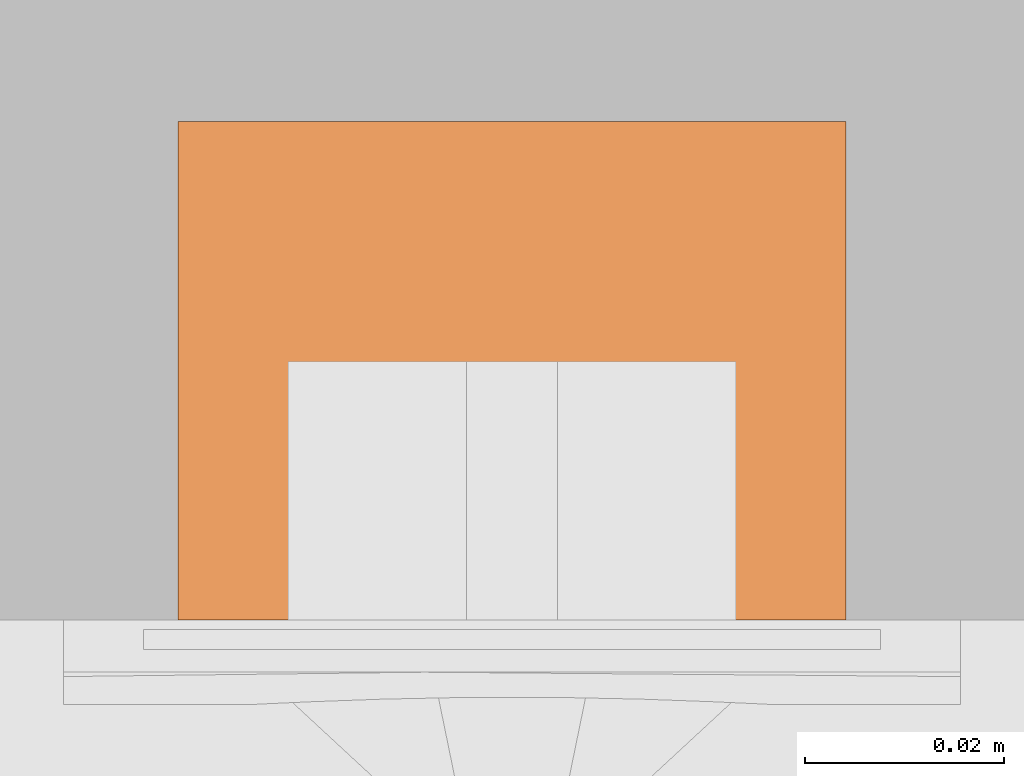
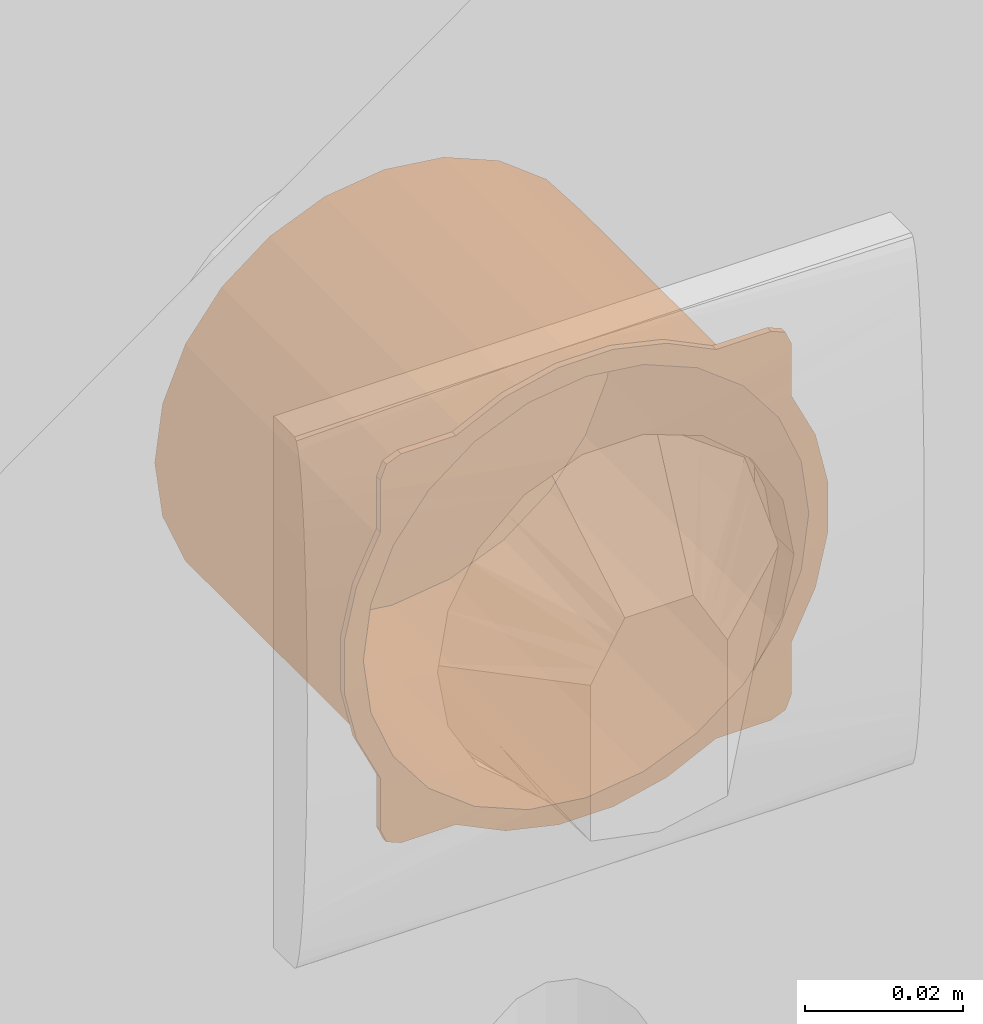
# One storey, part 28 of 30: 1 proxy.
"""IFC2X3 building model written with IfcOpenShell, lengths in metres."""

from ifc_helpers import new_model, entity, si_unit, converted_unit, derived_unit, direction, frame, origin, place, context, subcontext, project, spatial, faceted_brep, source, transform, mapped, material, type_object, type_shapes, element, save


model = new_model("IFC2X3")

# Units and contexts
model_context = context("Model", 3, precision=1e-05, world=origin(), true_north=direction((6.123031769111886e-17, 1.0)))
body_context = subcontext(model_context, "Body", "Model", "MODEL_VIEW")
ifc_project = project(units=[si_unit("LENGTHUNIT", "METRE"), si_unit("AREAUNIT", "SQUARE_METRE"), si_unit("VOLUMEUNIT", "CUBIC_METRE"), converted_unit("PLANEANGLEUNIT", "DEGREE", entity("IfcPlaneAngleMeasure", 0.017453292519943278), si_unit("PLANEANGLEUNIT", "RADIAN"), dimensions=[0, 0, 0, 0, 0, 0, 0]), si_unit("MASSUNIT", "GRAM", prefix="KILO"), derived_unit("MASSDENSITYUNIT", [(si_unit("MASSUNIT", "GRAM", prefix="KILO"), 1), (si_unit("LENGTHUNIT", "METRE"), -3)]), derived_unit("IONCONCENTRATIONUNIT", [(si_unit("MASSUNIT", "GRAM", prefix="KILO"), 1), (si_unit("LENGTHUNIT", "METRE"), -3)]), derived_unit("MOMENTOFINERTIAUNIT", [(si_unit("LENGTHUNIT", "METRE"), 4)]), si_unit("TIMEUNIT", "SECOND"), si_unit("FREQUENCYUNIT", "HERTZ"), si_unit("THERMODYNAMICTEMPERATUREUNIT", "DEGREE_CELSIUS"), derived_unit("THERMALTRANSMITTANCEUNIT", [(si_unit("MASSUNIT", "GRAM", prefix="KILO"), 1), (si_unit("THERMODYNAMICTEMPERATUREUNIT", "KELVIN"), -1), (si_unit("TIMEUNIT", "SECOND"), -3)]), derived_unit("THERMALCONDUCTANCEUNIT", [(si_unit("MASSUNIT", "GRAM", prefix="KILO"), 1), (si_unit("THERMODYNAMICTEMPERATUREUNIT", "KELVIN"), -1), (si_unit("TIMEUNIT", "SECOND"), -3), (si_unit("LENGTHUNIT", "METRE"), 1)]), derived_unit("VOLUMETRICFLOWRATEUNIT", [(si_unit("LENGTHUNIT", "METRE", prefix="DECI"), 3), (si_unit("TIMEUNIT", "SECOND"), -1)]), derived_unit("MASSFLOWRATEUNIT", [(si_unit("MASSUNIT", "GRAM", prefix="KILO"), 1), (si_unit("TIMEUNIT", "SECOND"), -1)]), derived_unit("ROTATIONALFREQUENCYUNIT", [(si_unit("TIMEUNIT", "SECOND"), -1)]), si_unit("ELECTRICCURRENTUNIT", "AMPERE"), si_unit("ELECTRICVOLTAGEUNIT", "VOLT"), si_unit("POWERUNIT", "WATT"), si_unit("FORCEUNIT", "NEWTON", prefix="KILO"), si_unit("ILLUMINANCEUNIT", "LUX"), si_unit("LUMINOUSFLUXUNIT", "LUMEN"), si_unit("LUMINOUSINTENSITYUNIT", "CANDELA"), si_unit("ENERGYUNIT", "JOULE"), derived_unit("USERDEFINED", [(si_unit("MASSUNIT", "GRAM", prefix="KILO"), -1), (si_unit("LENGTHUNIT", "METRE"), -2), (si_unit("TIMEUNIT", "SECOND"), 3), (si_unit("LUMINOUSFLUXUNIT", "LUMEN"), 1)]), derived_unit("USERDEFINED", [(si_unit("MASSUNIT", "GRAM", prefix="KILO"), 1), (si_unit("TIMEUNIT", "SECOND"), -3), (si_unit("LENGTHUNIT", "METRE"), 3), (si_unit("ELECTRICCURRENTUNIT", "AMPERE"), -2)]), derived_unit("SOUNDPOWERUNIT", [(si_unit("MASSUNIT", "GRAM", prefix="KILO"), 1), (si_unit("TIMEUNIT", "SECOND"), -3), (si_unit("LENGTHUNIT", "METRE"), 2)]), derived_unit("SOUNDPRESSUREUNIT", [(si_unit("MASSUNIT", "GRAM", prefix="KILO"), 1), (si_unit("LENGTHUNIT", "METRE"), -1), (si_unit("TIMEUNIT", "SECOND"), -2)]), derived_unit("LINEARVELOCITYUNIT", [(si_unit("LENGTHUNIT", "METRE"), 1), (si_unit("TIMEUNIT", "SECOND"), -1)]), si_unit("PRESSUREUNIT", "PASCAL"), derived_unit("USERDEFINED", [(si_unit("MASSUNIT", "GRAM", prefix="KILO"), 1), (si_unit("LENGTHUNIT", "METRE"), -2), (si_unit("TIMEUNIT", "SECOND"), -2)]), derived_unit("LINEARFORCEUNIT", [(si_unit("MASSUNIT", "GRAM", prefix="KILO"), 1), (si_unit("TIMEUNIT", "SECOND"), -2)]), derived_unit("PLANARFORCEUNIT", [(si_unit("MASSUNIT", "GRAM", prefix="KILO"), 1), (si_unit("LENGTHUNIT", "METRE"), -1), (si_unit("TIMEUNIT", "SECOND"), -2)]), derived_unit("SPECIFICHEATCAPACITYUNIT", [(si_unit("THERMODYNAMICTEMPERATUREUNIT", "KELVIN"), -1), (si_unit("LENGTHUNIT", "METRE"), 2), (si_unit("TIMEUNIT", "SECOND"), -2)]), derived_unit("HEATFLUXDENSITYUNIT", [(si_unit("MASSUNIT", "GRAM", prefix="KILO"), 1), (si_unit("TIMEUNIT", "SECOND"), -3)]), derived_unit("HEATINGVALUEUNIT", [(si_unit("LENGTHUNIT", "METRE"), 2), (si_unit("TIMEUNIT", "SECOND"), -2)]), derived_unit("VAPORPERMEABILITYUNIT", [(si_unit("LENGTHUNIT", "METRE"), -1), (si_unit("TIMEUNIT", "SECOND"), 1)]), derived_unit("DYNAMICVISCOSITYUNIT", [(si_unit("MASSUNIT", "GRAM", prefix="KILO"), 1), (si_unit("TIMEUNIT", "SECOND"), -1), (si_unit("LENGTHUNIT", "METRE"), -1)]), derived_unit("THERMALEXPANSIONCOEFFICIENTUNIT", [(si_unit("THERMODYNAMICTEMPERATUREUNIT", "KELVIN"), -1)]), derived_unit("MODULUSOFELASTICITYUNIT", [(si_unit("MASSUNIT", "GRAM", prefix="KILO"), 1), (si_unit("LENGTHUNIT", "METRE"), -1), (si_unit("TIMEUNIT", "SECOND"), -2)]), derived_unit("ISOTHERMALMOISTURECAPACITYUNIT", [(si_unit("MASSUNIT", "GRAM", prefix="KILO"), -1), (si_unit("LENGTHUNIT", "METRE"), 3)]), derived_unit("MOISTUREDIFFUSIVITYUNIT", [(si_unit("TIMEUNIT", "SECOND"), -1), (si_unit("LENGTHUNIT", "METRE"), 2)]), derived_unit("MASSPERLENGTHUNIT", [(si_unit("MASSUNIT", "GRAM", prefix="KILO"), 1), (si_unit("LENGTHUNIT", "METRE"), -1)]), derived_unit("THERMALRESISTANCEUNIT", [(si_unit("MASSUNIT", "GRAM", prefix="KILO"), -1), (si_unit("TIMEUNIT", "SECOND"), 3), (si_unit("THERMODYNAMICTEMPERATUREUNIT", "KELVIN"), 1)]), derived_unit("ACCELERATIONUNIT", [(si_unit("LENGTHUNIT", "METRE"), 1), (si_unit("TIMEUNIT", "SECOND"), -2)]), derived_unit("ANGULARVELOCITYUNIT", [(si_unit("TIMEUNIT", "SECOND"), -1), (si_unit("PLANEANGLEUNIT", "RADIAN"), 1)]), derived_unit("LINEARSTIFFNESSUNIT", [(si_unit("MASSUNIT", "GRAM", prefix="KILO"), 1), (si_unit("TIMEUNIT", "SECOND"), -2)]), derived_unit("WARPINGCONSTANTUNIT", [(si_unit("LENGTHUNIT", "METRE"), 6)]), derived_unit("LINEARMOMENTUNIT", [(si_unit("MASSUNIT", "GRAM", prefix="KILO"), 1), (si_unit("LENGTHUNIT", "METRE"), 1), (si_unit("TIMEUNIT", "SECOND"), -2)]), derived_unit("TORQUEUNIT", [(si_unit("MASSUNIT", "GRAM", prefix="KILO"), 1), (si_unit("LENGTHUNIT", "METRE"), 2), (si_unit("TIMEUNIT", "SECOND"), -2)])], contexts=[model_context])

# Site, building, storey
site_placement = place(None, origin())
site = spatial("IfcSite", under=ifc_project, at=site_placement, Name="Default", CompositionType="ELEMENT")
building_placement = place(site_placement, origin())
building = spatial("IfcBuilding", under=site, at=building_placement, CompositionType="ELEMENT")
storey_placement = place(building_placement, origin())
storey = spatial("IfcBuildingStorey", under=building, at=storey_placement, Name="Niveau 0", CompositionType="ELEMENT", Elevation=-1.949160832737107e-14)

# Proxy
ifc_material = material(Name="Plastique orange")
building_element_proxy_type = type_object("IfcBuildingElementProxyType", Name="Legrand Boite encastrement batibox 1 poste1:1 poste", PredefinedType="NOTDEFINED", material=ifc_material)
shared_shape = source(origin(), body_context, "Body", "Brep", [
    faceted_brep([(0.141749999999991, 0.1005, -1.7942243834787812), (0.1439802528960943, 0.1005, -1.7952125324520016), (0.1486880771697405, 0.1005, -1.788900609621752), (0.1403837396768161, 0.1005, -1.7969555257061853), (0.13678722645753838, 0.1005, -1.7986985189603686), (0.13367043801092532, 0.1005, -1.7975710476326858), (0.13289192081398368, 0.1005, -1.799592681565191), (0.12899661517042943, 0.1005, -1.8004868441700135), (0.12499999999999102, 0.1005, -1.798712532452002), (0.12499999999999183, 0.1005, -1.8004868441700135), (0.1210033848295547, 0.1005, -1.8004868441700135), (0.11632956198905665, 0.1005, -1.7975710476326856), (0.11710807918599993, 0.1005, -1.799592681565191), (0.11321277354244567, 0.1005, -1.798698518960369), (0.10824999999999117, 0.1005, -1.7942243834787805), (0.10893878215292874, 0.1005, -1.7966271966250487), (0.10601974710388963, 0.1005, -1.7952125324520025), (0.10131192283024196, 0.1005, -1.788900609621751), (0.09799999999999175, 0.1005, -1.7952125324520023), (0.09499999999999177, 0.1005, -1.7922125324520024), (0.09499999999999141, 0.1005, -1.7841927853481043), (0.0959881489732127, 0.1005, -1.7819625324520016), (0.09325700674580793, 0.1005, -1.7805962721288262), (0.09151401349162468, 0.1005, -1.7769997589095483), (0.09264148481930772, 0.1005, -1.7738829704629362), (0.09061985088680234, 0.1005, -1.7731044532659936), (0.08972568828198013, 0.1005, -1.7692091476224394), (0.09149999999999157, 0.1005, -1.7652125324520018), (0.08972568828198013, 0.1005, -1.765212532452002), (0.08972568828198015, 0.1005, -1.7612159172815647), (0.09264148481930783, 0.1005, -1.7565420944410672), (0.09061985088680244, 0.1005, -1.7573206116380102), (0.09151401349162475, 0.1005, -1.7534253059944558), (0.09598814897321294, 0.1005, -1.7484625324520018), (0.09358533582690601, 0.1005, -1.7491513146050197), (0.09499999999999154, 0.1005, -1.7462322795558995), (0.10131192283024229, 0.1005, -1.7415244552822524), (0.0949999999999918, 0.1005, -1.738212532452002), (0.0979999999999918, 0.1005, -1.735212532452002), (0.10601974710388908, 0.1005, -1.735212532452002), (0.10824999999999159, 0.1005, -1.7362006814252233), (0.10961626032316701, 0.1005, -1.7334695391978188), (0.11321277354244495, 0.1005, -1.7317265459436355), (0.11632956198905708, 0.1005, -1.7328540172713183), (0.11710807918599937, 0.1005, -1.7308323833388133), (0.12100338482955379, 0.1005, -1.7299382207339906), (0.12499999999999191, 0.1005, -1.731712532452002), (0.1249999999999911, 0.1005, -1.7299382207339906), (0.1289966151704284, 0.1005, -1.7299382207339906), (0.13367043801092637, 0.1005, -1.7328540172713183), (0.13289192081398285, 0.1005, -1.730832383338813), (0.1367872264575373, 0.1005, -1.7317265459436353), (0.14174999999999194, 0.1005, -1.7362006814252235), (0.1410612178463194, 0.1005, -1.7337978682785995), (0.14398025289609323, 0.1005, -1.7352125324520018), (0.14868807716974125, 0.1005, -1.741524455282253), (0.15199999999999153, 0.1005, -1.7352125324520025), (0.1549999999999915, 0.1005, -1.7382125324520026), (0.1549999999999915, 0.1005, -1.7462322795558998), (0.15401185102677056, 0.1005, -1.7484625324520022), (0.15674299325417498, 0.1005, -1.749828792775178), (0.1584859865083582, 0.1005, -1.7534253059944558), (0.15735851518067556, 0.1005, -1.7565420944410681), (0.15938014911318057, 0.1005, -1.7573206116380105), (0.16027431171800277, 0.1005, -1.7612159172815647), (0.15849999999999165, 0.1005, -1.7652125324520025), (0.16027431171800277, 0.1005, -1.7652125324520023), (0.16027431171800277, 0.1005, -1.7692091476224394), (0.15735851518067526, 0.1005, -1.773882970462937), (0.15938014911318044, 0.1005, -1.773104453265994), (0.1584859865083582, 0.1005, -1.7769997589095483), (0.15401185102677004, 0.1005, -1.7819625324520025), (0.1549999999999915, 0.1005, -1.7841927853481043), (0.15641466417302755, 0.1005, -1.7812737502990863), (0.15412132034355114, 0.1005, -1.7360912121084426), (0.09587867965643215, 0.1005, -1.7360912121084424), (0.09587867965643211, 0.1005, -1.7943338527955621), (0.15199999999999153, 0.1005, -1.7952125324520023), (0.15499999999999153, 0.1005, -1.7922125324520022), (0.1541213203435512, 0.1005, -1.794333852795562), (0.1439802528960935, 0.1015, -1.7352125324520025), (0.14798097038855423, 0.1015, -1.7422315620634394), (0.14461548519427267, 0.1015, -1.7396491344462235), (0.15199999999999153, 0.1015, -1.7352125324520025), (0.14124999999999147, 0.1015, -1.737066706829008), (0.14038373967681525, 0.1015, -1.7334695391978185), (0.1549999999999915, 0.1015, -1.7382125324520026), (0.15412132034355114, 0.1015, -1.7360912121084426), (0.1549999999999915, 0.1015, -1.7462322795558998), (0.15056339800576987, 0.1015, -1.7455970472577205), (0.15314582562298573, 0.1015, -1.7489625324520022), (0.1564146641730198, 0.1015, -1.7491513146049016), (0.1584859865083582, 0.1015, -1.7534253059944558), (0.1547692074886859, 0.1015, -1.752881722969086), (0.15639258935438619, 0.1015, -1.7568009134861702), (0.15938014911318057, 0.1015, -1.7573206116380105), (0.16027431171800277, 0.1015, -1.7612159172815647), (0.1569462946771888, 0.1015, -1.761006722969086), (0.15749999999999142, 0.1015, -1.765212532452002), (0.16027431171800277, 0.1015, -1.7652125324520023), (0.16027431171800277, 0.1015, -1.7692091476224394), (0.15694629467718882, 0.1015, -1.769418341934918), (0.15639258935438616, 0.1015, -1.773624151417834), (0.15938014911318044, 0.1015, -1.773104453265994), (0.1584859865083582, 0.1015, -1.7769997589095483), (0.15476920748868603, 0.1015, -1.7775433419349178), (0.15314582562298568, 0.1015, -1.7814625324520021), (0.1567429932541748, 0.1015, -1.7805962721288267), (0.15499999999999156, 0.1015, -1.7841927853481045), (0.1505633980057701, 0.1015, -1.7848280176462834), (0.14798097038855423, 0.1015, -1.788193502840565), (0.15499999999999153, 0.1015, -1.7922125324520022), (0.15199999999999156, 0.1015, -1.7952125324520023), (0.1541213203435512, 0.1015, -1.794333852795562), (0.1439802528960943, 0.1015, -1.7952125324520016), (0.144615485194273, 0.1015, -1.7907759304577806), (0.14124999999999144, 0.1015, -1.7933583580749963), (0.1410612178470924, 0.1015, -1.79662719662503), (0.13678722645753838, 0.1015, -1.7986985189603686), (0.13733080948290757, 0.1015, -1.7949817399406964), (0.13341161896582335, 0.1015, -1.796605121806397), (0.13289192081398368, 0.1015, -1.799592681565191), (0.12899661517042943, 0.1015, -1.8004868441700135), (0.1292058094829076, 0.1015, -1.7971588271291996), (0.12499999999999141, 0.1015, -1.7977125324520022), (0.12499999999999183, 0.1015, -1.8004868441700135), (0.1210033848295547, 0.1015, -1.8004868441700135), (0.12192512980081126, 0.1015, -1.7973077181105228), (0.11658838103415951, 0.1015, -1.796605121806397), (0.11710807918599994, 0.1015, -1.799592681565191), (0.11321277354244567, 0.1015, -1.798698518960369), (0.11266919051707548, 0.1015, -1.7949817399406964), (0.10874999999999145, 0.1015, -1.7933583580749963), (0.10961626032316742, 0.1015, -1.7969555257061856), (0.10601974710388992, 0.1015, -1.7952125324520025), (0.10538451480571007, 0.1015, -1.7907759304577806), (0.10201902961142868, 0.1015, -1.788193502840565), (0.09799999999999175, 0.1015, -1.7952125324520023), (0.09499999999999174, 0.1015, -1.7922125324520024), (0.09587867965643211, 0.1015, -1.7943338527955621), (0.09499999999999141, 0.1015, -1.7841927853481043), (0.09943660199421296, 0.1015, -1.7848280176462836), (0.09685417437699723, 0.1015, -1.7814625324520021), (0.09358533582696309, 0.1015, -1.7812737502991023), (0.09151401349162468, 0.1015, -1.7769997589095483), (0.09523079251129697, 0.1015, -1.777543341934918), (0.09360741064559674, 0.1015, -1.773624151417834), (0.09061985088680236, 0.1015, -1.7731044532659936), (0.08972568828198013, 0.1015, -1.7692091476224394), (0.0930537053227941, 0.1015, -1.7694183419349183), (0.09249999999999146, 0.1015, -1.7652125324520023), (0.08972568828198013, 0.1015, -1.765212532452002), (0.08972568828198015, 0.1015, -1.7612159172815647), (0.09305370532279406, 0.1015, -1.7610067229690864), (0.09360741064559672, 0.1015, -1.7568009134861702), (0.09061985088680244, 0.1015, -1.7573206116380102), (0.09151401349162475, 0.1015, -1.7534253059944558), (0.09523079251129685, 0.1015, -1.7528817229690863), (0.09685417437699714, 0.1015, -1.7489625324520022), (0.09325700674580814, 0.1015, -1.7498287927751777), (0.0949999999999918, 0.1015, -1.7462322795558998), (0.09943660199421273, 0.1015, -1.7455970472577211), (0.10201902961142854, 0.1015, -1.7422315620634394), (0.0949999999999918, 0.1015, -1.738212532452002), (0.0979999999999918, 0.1015, -1.735212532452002), (0.09587867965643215, 0.1015, -1.7360912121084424), (0.10601974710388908, 0.1015, -1.735212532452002), (0.10538451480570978, 0.1015, -1.7396491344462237), (0.10874999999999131, 0.1015, -1.737066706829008), (0.10893878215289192, 0.1015, -1.7337978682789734), (0.11321277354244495, 0.1015, -1.7317265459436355), (0.11266919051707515, 0.1015, -1.7354433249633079), (0.11658838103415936, 0.1015, -1.7338199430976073), (0.11710807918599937, 0.1015, -1.7308323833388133), (0.12100338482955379, 0.1015, -1.7299382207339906), (0.12079419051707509, 0.1015, -1.7332662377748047), (0.12499999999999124, 0.1015, -1.732712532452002), (0.1249999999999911, 0.1015, -1.7299382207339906), (0.1289966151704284, 0.1015, -1.7299382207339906), (0.1280748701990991, 0.1015, -1.7331173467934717), (0.13341161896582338, 0.1015, -1.7338199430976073), (0.13289192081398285, 0.1015, -1.730832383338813), (0.1367872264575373, 0.1015, -1.7317265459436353), (0.13733080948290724, 0.1015, -1.7354433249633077), (0.11658838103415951, 0.1005, -1.796605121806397), (0.12079419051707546, 0.1005, -1.7971588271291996), (0.11658838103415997, 0.05250000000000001, -1.796605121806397), (0.12499999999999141, 0.1005, -1.7977125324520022), (0.12499999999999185, 0.05250000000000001, -1.797712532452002), (0.11658838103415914, 0.1005, -1.7338199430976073), (0.12079419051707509, 0.1005, -1.7332662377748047), (0.11658838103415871, 0.05250000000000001, -1.7338199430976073), (0.12499999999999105, 0.1005, -1.732712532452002), (0.1249999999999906, 0.05250000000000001, -1.732712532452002), (0.11266919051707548, 0.1005, -1.7949817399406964), (0.10874999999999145, 0.1005, -1.7933583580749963), (0.10874999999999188, 0.05250000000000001, -1.7933583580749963), (0.10201902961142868, 0.1005, -1.788193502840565), (0.09943660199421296, 0.1005, -1.7848280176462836), (0.09685417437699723, 0.1005, -1.7814625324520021), (0.10201902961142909, 0.05250000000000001, -1.788193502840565), (0.09685417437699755, 0.05250000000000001, -1.7814625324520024), (0.11266919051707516, 0.10050000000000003, -1.7354433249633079), (0.10874999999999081, 0.05250000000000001, -1.7370667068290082), (0.10874999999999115, 0.1005, -1.737066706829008), (0.10538451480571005, 0.1005, -1.7907759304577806), (0.09523079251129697, 0.1005, -1.777543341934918), (0.09360741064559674, 0.1005, -1.773624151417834), (0.093607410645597, 0.05250000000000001, -1.7736241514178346), (0.09249999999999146, 0.1005, -1.7652125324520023), (0.0930537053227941, 0.1005, -1.7694183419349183), (0.09249999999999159, 0.05250000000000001, -1.7652125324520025), (0.09305370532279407, 0.10050000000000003, -1.7610067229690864), (0.09360741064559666, 0.1005, -1.7568009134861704), (0.09360741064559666, 0.05250000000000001, -1.7568009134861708), (0.09943660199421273, 0.10050000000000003, -1.7455970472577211), (0.09685417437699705, 0.1005, -1.7489625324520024), (0.10201902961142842, 0.1005, -1.7422315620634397), (0.09685417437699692, 0.05250000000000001, -1.7489625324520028), (0.10201902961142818, 0.05250000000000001, -1.7422315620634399), (0.10538451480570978, 0.1005, -1.7396491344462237), (0.09523079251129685, 0.1005, -1.7528817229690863), (0.13341161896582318, 0.1005, -1.7338199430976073), (0.12920580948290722, 0.1005, -1.7332662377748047), (0.13341161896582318, 0.05250000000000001, -1.7338199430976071), (0.13341161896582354, 0.1005, -1.796605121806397), (0.12920580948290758, 0.10050000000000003, -1.7971588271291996), (0.13341161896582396, 0.05250000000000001, -1.7966051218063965), (0.1373308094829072, 0.1005, -1.7354433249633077), (0.14124999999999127, 0.1005, -1.7370667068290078), (0.1412499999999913, 0.05250000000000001, -1.7370667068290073), (0.1479809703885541, 0.1005, -1.742231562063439), (0.15056339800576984, 0.1005, -1.7455970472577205), (0.15314582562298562, 0.1005, -1.748962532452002), (0.14798097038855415, 0.05250000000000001, -1.742231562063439), (0.15314582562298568, 0.05250000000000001, -1.7489625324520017), (0.13733080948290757, 0.1005, -1.7949817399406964), (0.141249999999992, 0.05250000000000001, -1.793358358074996), (0.14124999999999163, 0.1005, -1.793358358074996), (0.1446154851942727, 0.10050000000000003, -1.7396491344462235), (0.1547692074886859, 0.10050000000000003, -1.752881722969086), (0.15639258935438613, 0.1005, -1.7568009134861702), (0.15639258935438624, 0.05250000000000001, -1.7568009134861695), (0.15749999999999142, 0.1005, -1.765212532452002), (0.1569462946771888, 0.10050000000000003, -1.761006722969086), (0.15749999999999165, 0.05250000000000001, -1.7652125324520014), (0.15694629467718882, 0.1005, -1.769418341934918), (0.1563925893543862, 0.1005, -1.773624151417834), (0.15639258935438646, 0.05250000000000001, -1.7736241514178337), (0.1505633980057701, 0.10050000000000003, -1.7848280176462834), (0.15314582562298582, 0.1005, -1.781462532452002), (0.1479809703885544, 0.1005, -1.7881935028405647), (0.1531458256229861, 0.05250000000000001, -1.7814625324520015), (0.14798097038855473, 0.05250000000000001, -1.7881935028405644), (0.14461548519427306, 0.1005, -1.7907759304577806), (0.15476920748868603, 0.1005, -1.7775433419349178), (0.14174999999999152, 0.05050000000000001, -1.7942243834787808), (0.1486880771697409, 0.05050000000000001, -1.7889006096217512), (0.15401185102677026, 0.05050000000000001, -1.781962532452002), (0.1573585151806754, 0.05050000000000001, -1.7738829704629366), (0.15849999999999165, 0.05050000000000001, -1.765212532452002), (0.15735851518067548, 0.05050000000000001, -1.7565420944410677), (0.1540118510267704, 0.05050000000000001, -1.748462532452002), (0.14868807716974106, 0.05050000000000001, -1.7415244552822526), (0.14174999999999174, 0.05050000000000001, -1.7362006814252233), (0.1336704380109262, 0.05050000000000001, -1.7328540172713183), (0.1249999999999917, 0.05050000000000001, -1.731712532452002), (0.11632956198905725, 0.05050000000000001, -1.7328540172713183), (0.1082499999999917, 0.05050000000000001, -1.7362006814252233), (0.10131192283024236, 0.05050000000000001, -1.7415244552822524), (0.09598814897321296, 0.05050000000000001, -1.7484625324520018), (0.09264148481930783, 0.05050000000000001, -1.7565420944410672), (0.09149999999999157, 0.05050000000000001, -1.7652125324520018), (0.09264148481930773, 0.05050000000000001, -1.7738829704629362), (0.09598814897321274, 0.05050000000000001, -1.7819625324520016), (0.10131192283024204, 0.05050000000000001, -1.788900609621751), (0.10824999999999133, 0.05050000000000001, -1.7942243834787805), (0.11632956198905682, 0.05050000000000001, -1.7975710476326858), (0.12499999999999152, 0.05050000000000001, -1.798712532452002), (0.13367043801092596, 0.05050000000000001, -1.7975710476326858), (0.12499999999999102, 0.05250000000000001, -1.798712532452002), (0.12499999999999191, 0.05250000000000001, -1.731712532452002)], [[[0, 1, 2]], [[0, 3, 1]], [[0, 4, 3]], [[0, 5, 4]], [[5, 6, 4]], [[5, 7, 6]], [[8, 7, 5]], [[8, 9, 7]], [[8, 10, 9]], [[10, 8, 11]], [[11, 12, 10]], [[11, 13, 12]], [[14, 13, 11]], [[14, 15, 13]], [[14, 16, 15]], [[17, 16, 14]], [[17, 18, 16]], [[18, 17, 19]], [[19, 17, 20]], [[21, 20, 17]], [[21, 22, 20]], [[21, 23, 22]], [[21, 24, 23]], [[24, 25, 23]], [[24, 26, 25]], [[24, 27, 26]], [[27, 28, 26]], [[27, 29, 28]], [[29, 27, 30]], [[30, 31, 29]], [[30, 32, 31]], [[32, 30, 33]], [[33, 34, 32]], [[33, 35, 34]], [[33, 36, 35]], [[35, 36, 37]], [[38, 37, 36]], [[39, 38, 36]], [[39, 36, 40]], [[40, 41, 39]], [[40, 42, 41]], [[40, 43, 42]], [[43, 44, 42]], [[43, 45, 44]], [[46, 45, 43]], [[46, 47, 45]], [[46, 48, 47]], [[48, 46, 49]], [[49, 50, 48]], [[49, 51, 50]], [[51, 49, 52]], [[52, 53, 51]], [[52, 54, 53]], [[54, 52, 55]], [[56, 54, 55]], [[55, 57, 56]], [[57, 55, 58]], [[59, 58, 55]], [[59, 60, 58]], [[59, 61, 60]], [[62, 61, 59]], [[62, 63, 61]], [[62, 64, 63]], [[62, 65, 64]], [[65, 66, 64]], [[65, 67, 66]], [[67, 65, 68]], [[68, 69, 67]], [[68, 70, 69]], [[70, 68, 71]], [[72, 71, 2]], [[71, 72, 73]], [[71, 73, 70]], [[56, 57, 74]], [[75, 37, 38]], [[18, 19, 76]], [[77, 2, 1]], [[78, 2, 77]], [[77, 79, 78]], [[2, 78, 72]], [[80, 81, 82]], [[83, 81, 80]], [[80, 82, 84]], [[84, 85, 80]], [[86, 81, 83]], [[83, 87, 86]], [[81, 86, 88]], [[88, 89, 81]], [[88, 90, 89]], [[90, 88, 91]], [[90, 91, 92]], [[92, 93, 90]], [[92, 94, 93]], [[94, 92, 95]], [[94, 95, 96]], [[96, 97, 94]], [[96, 98, 97]], [[98, 96, 99]], [[98, 99, 100]], [[100, 101, 98]], [[100, 102, 101]], [[102, 100, 103]], [[102, 103, 104]], [[104, 105, 102]], [[104, 106, 105]], [[106, 104, 107]], [[106, 107, 108]], [[108, 109, 106]], [[108, 110, 109]], [[111, 110, 108]], [[110, 111, 112]], [[112, 111, 113]], [[112, 114, 110]], [[114, 115, 110]], [[114, 116, 115]], [[116, 114, 117]], [[116, 117, 118]], [[118, 119, 116]], [[118, 120, 119]], [[120, 118, 121]], [[120, 121, 122]], [[122, 123, 120]], [[122, 124, 123]], [[124, 122, 125]], [[124, 125, 126]], [[126, 127, 124]], [[126, 128, 127]], [[128, 126, 129]], [[128, 129, 130]], [[130, 131, 128]], [[130, 132, 131]], [[132, 130, 133]], [[132, 133, 134]], [[134, 135, 132]], [[134, 136, 135]], [[134, 137, 136]], [[137, 138, 136]], [[139, 138, 137]], [[140, 136, 138]], [[140, 141, 136]], [[140, 142, 141]], [[142, 140, 143]], [[142, 143, 144]], [[144, 145, 142]], [[144, 146, 145]], [[146, 144, 147]], [[146, 147, 148]], [[148, 149, 146]], [[148, 150, 149]], [[150, 148, 151]], [[150, 151, 152]], [[152, 153, 150]], [[152, 154, 153]], [[154, 152, 155]], [[154, 155, 156]], [[156, 157, 154]], [[156, 158, 157]], [[158, 156, 159]], [[158, 159, 160]], [[160, 161, 158]], [[160, 162, 161]], [[163, 162, 160]], [[164, 162, 163]], [[164, 163, 165]], [[162, 164, 166]], [[166, 167, 162]], [[166, 168, 167]], [[168, 166, 169]], [[168, 169, 170]], [[170, 171, 168]], [[170, 172, 171]], [[172, 170, 173]], [[172, 173, 174]], [[174, 175, 172]], [[174, 176, 175]], [[176, 174, 177]], [[176, 177, 178]], [[178, 179, 176]], [[178, 180, 179]], [[180, 178, 181]], [[180, 181, 182]], [[182, 84, 183]], [[84, 182, 85]], [[182, 183, 180]], [[57, 58, 88, 86]], [[72, 78, 111, 108]], [[57, 86, 87, 74]], [[87, 83, 56, 74]], [[54, 56, 83, 80]], [[38, 39, 166, 164]], [[38, 164, 165, 75]], [[165, 163, 37, 75]], [[35, 37, 163, 160]], [[19, 20, 140, 138]], [[77, 1, 114, 112]], [[16, 18, 137, 134]], [[77, 112, 113, 79]], [[113, 111, 78, 79]], [[19, 138, 139, 76]], [[139, 137, 18, 76]], [[184, 185, 128]], [[186, 185, 184]], [[186, 187, 185]], [[186, 188, 187]], [[185, 187, 127]], [[124, 127, 187]], [[185, 127, 128]], [[189, 172, 175]], [[190, 189, 175]], [[191, 189, 190]], [[175, 176, 190]], [[192, 190, 176]], [[193, 191, 192]], [[191, 190, 192]], [[128, 131, 184]], [[194, 184, 131]], [[131, 132, 194]], [[132, 195, 194]], [[196, 194, 195]], [[196, 186, 184]], [[196, 184, 194]], [[136, 141, 197]], [[198, 197, 141]], [[141, 142, 198]], [[142, 199, 198]], [[200, 198, 199]], [[201, 200, 199]], [[200, 197, 198]], [[172, 189, 202]], [[171, 172, 202]], [[203, 202, 189]], [[191, 203, 189]], [[203, 204, 202]], [[202, 204, 171]], [[168, 171, 204]], [[132, 135, 195]], [[205, 195, 135]], [[135, 136, 205]], [[136, 197, 205]], [[196, 205, 197]], [[197, 200, 196]], [[196, 195, 205]], [[142, 145, 199]], [[206, 199, 145]], [[145, 146, 206]], [[146, 207, 206]], [[201, 206, 207]], [[208, 201, 207]], [[201, 199, 206]], [[209, 210, 150]], [[208, 210, 209]], [[209, 211, 208]], [[208, 207, 210]], [[210, 207, 149]], [[207, 146, 149]], [[149, 150, 210]], [[150, 153, 209]], [[212, 209, 153]], [[153, 154, 212]], [[154, 213, 212]], [[211, 212, 213]], [[211, 213, 214]], [[211, 209, 212]], [[215, 216, 161]], [[161, 162, 215]], [[162, 217, 215]], [[218, 216, 215]], [[218, 215, 217]], [[218, 217, 219]], [[158, 161, 216]], [[168, 204, 220]], [[167, 168, 220]], [[219, 220, 204]], [[204, 203, 219]], [[219, 217, 220]], [[162, 167, 217]], [[220, 217, 167]], [[154, 157, 213]], [[221, 213, 157]], [[157, 158, 221]], [[158, 216, 221]], [[214, 221, 216]], [[218, 214, 216]], [[214, 213, 221]], [[222, 223, 180]], [[193, 223, 222]], [[224, 193, 222]], [[193, 192, 223]], [[223, 192, 179]], [[176, 179, 192]], [[223, 179, 180]], [[225, 120, 123]], [[226, 225, 123]], [[227, 225, 226]], [[123, 124, 226]], [[187, 226, 124]], [[188, 227, 187]], [[227, 226, 187]], [[180, 183, 222]], [[228, 222, 183]], [[183, 84, 228]], [[84, 229, 228]], [[224, 228, 229]], [[224, 229, 230]], [[224, 222, 228]], [[81, 89, 231]], [[232, 231, 89]], [[89, 90, 232]], [[90, 233, 232]], [[234, 232, 233]], [[235, 234, 233]], [[234, 231, 232]], [[120, 225, 236]], [[119, 120, 236]], [[237, 236, 225]], [[227, 237, 225]], [[237, 238, 236]], [[236, 238, 119]], [[116, 119, 238]], [[84, 82, 229]], [[239, 229, 82]], [[82, 81, 239]], [[81, 231, 239]], [[230, 239, 231]], [[231, 234, 230]], [[230, 229, 239]], [[90, 93, 233]], [[240, 233, 93]], [[93, 94, 240]], [[94, 241, 240]], [[235, 240, 241]], [[242, 235, 241]], [[235, 233, 240]], [[243, 244, 98]], [[242, 244, 243]], [[243, 245, 242]], [[242, 241, 244]], [[244, 241, 97]], [[241, 94, 97]], [[97, 98, 244]], [[98, 101, 243]], [[246, 243, 101]], [[101, 102, 246]], [[102, 247, 246]], [[245, 246, 247]], [[245, 247, 248]], [[245, 243, 246]], [[249, 250, 109]], [[109, 110, 249]], [[110, 251, 249]], [[252, 250, 249]], [[252, 249, 251]], [[252, 251, 253]], [[106, 109, 250]], [[116, 238, 254]], [[115, 116, 254]], [[253, 254, 238]], [[238, 237, 253]], [[253, 251, 254]], [[110, 115, 251]], [[254, 251, 115]], [[102, 105, 247]], [[255, 247, 105]], [[105, 106, 255]], [[106, 250, 255]], [[248, 255, 250]], [[252, 248, 250]], [[248, 247, 255]], [[256, 257, 258, 259, 260, 261, 262, 263, 264, 265, 266, 267, 268, 269, 270, 271, 272, 273, 274, 275, 276, 277, 278, 279]], [[280, 8, 5, 279, 278]], [[0, 256, 279, 5]], [[71, 68, 259, 258]], [[257, 2, 71, 258]], [[256, 0, 2, 257]], [[259, 68, 65, 260]], [[59, 262, 261, 62]], [[55, 263, 262, 59]], [[49, 46, 281, 266, 265]], [[55, 52, 264, 263]], [[49, 265, 264, 52]], [[62, 261, 260, 65]], [[281, 46, 43, 267, 266]], [[268, 267, 43, 40]], [[270, 33, 30, 271]], [[269, 36, 33, 270]], [[30, 27, 272, 271]], [[40, 36, 269, 268]], [[21, 274, 273, 24]], [[17, 275, 274, 21]], [[11, 8, 280, 278, 277]], [[17, 14, 276, 275]], [[11, 277, 276, 14]], [[24, 273, 272, 27]], [[230, 234, 235, 242, 245, 248, 252, 253, 237, 227, 188, 186, 196, 200, 201, 208, 211, 214, 218, 219, 203, 191, 193, 224]], [[51, 53, 54, 80, 85, 182]], [[169, 166, 39, 41, 42, 170]], [[182, 181, 178, 48, 50, 51]], [[45, 47, 48, 178, 177, 174]], [[174, 173, 170, 42, 44, 45]], [[32, 34, 35, 160, 159, 156]], [[143, 140, 20, 22, 23, 144]], [[156, 155, 152, 29, 31, 32]], [[26, 28, 29, 152, 151, 148]], [[148, 147, 144, 23, 25, 26]], [[13, 15, 16, 134, 133, 130]], [[117, 114, 1, 3, 4, 118]], [[130, 129, 126, 10, 12, 13]], [[7, 9, 10, 126, 125, 122]], [[122, 121, 118, 4, 6, 7]], [[70, 73, 72, 108, 107, 104]], [[91, 88, 58, 60, 61, 92]], [[104, 103, 100, 67, 69, 70]], [[64, 66, 67, 100, 99, 96]], [[96, 95, 92, 61, 63, 64]]]),
])
type_shapes(building_element_proxy_type, [shared_shape])
proxy_placement = place(storey_placement, frame((-20.357065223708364, 2.969026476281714, 3.815699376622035), z_axis=(0.0, 0.0, 1.0), x_axis=(-1.0, 0.0, 0.0)))
element("IfcBuildingElementProxy", 1, at=proxy_placement, inside=storey, type_object=building_element_proxy_type, material=ifc_material, Name="Legrand Boite encastrement batibox 1 poste1:1 poste", ObjectType="Legrand Boite encastrement batibox 1 poste1:1 poste", context=body_context, shape_type="MappedRepresentation", body=[
    mapped(shared_shape, transform((0.0, 0.0, 0.0), scale=1.0)),
])

save(model, "model.ifc")
